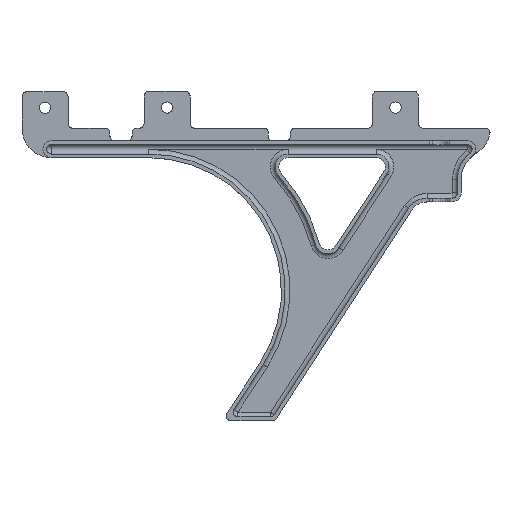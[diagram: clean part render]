
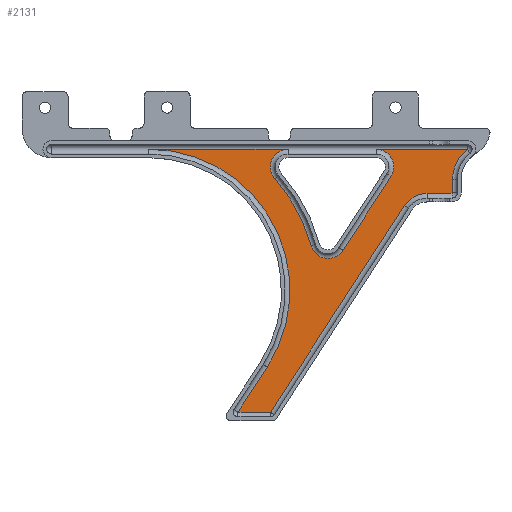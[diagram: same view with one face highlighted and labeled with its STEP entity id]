
A CAD part, top view. The second image highlights one B-rep face of the part: STEP entity #2131.
In plain terms, the highlighted planar face has unit normal (0, 0, 1).
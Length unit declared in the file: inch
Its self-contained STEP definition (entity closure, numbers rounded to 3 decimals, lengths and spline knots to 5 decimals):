
#44=PLANE('',#2312);
#110=FACE_OUTER_BOUND('',#230,.T.);
#230=EDGE_LOOP('',(#1531,#1532,#1533,#1534,#1535,#1536,#1537,#1538,#1539,
#1540,#1541,#1542,#1543,#1544,#1545,#1546));
#351=LINE('',#3303,#537);
#353=LINE('',#3313,#539);
#355=LINE('',#3321,#541);
#376=LINE('',#3384,#562);
#379=LINE('',#3393,#565);
#381=LINE('',#3403,#567);
#382=LINE('',#3431,#568);
#384=LINE('',#3448,#570);
#537=VECTOR('',#2572,0.3937);
#539=VECTOR('',#2582,0.3937);
#541=VECTOR('',#2588,0.3937);
#562=VECTOR('',#2641,0.3937);
#565=VECTOR('',#2650,0.3937);
#567=VECTOR('',#2662,0.3937);
#568=VECTOR('',#2679,0.3937);
#570=VECTOR('',#2705,0.3937);
#731=CIRCLE('',#2282,1.915);
#739=CIRCLE('',#2295,0.365);
#742=CIRCLE('',#2298,0.01);
#746=CIRCLE('',#2304,0.515);
#751=CIRCLE('',#2313,0.24);
#752=CIRCLE('',#2314,0.24);
#753=CIRCLE('',#2315,2.285);
#754=CIRCLE('',#2316,0.24);
#872=VERTEX_POINT('',#3300);
#873=VERTEX_POINT('',#3302);
#876=VERTEX_POINT('',#3310);
#877=VERTEX_POINT('',#3312);
#880=VERTEX_POINT('',#3318);
#881=VERTEX_POINT('',#3320);
#905=VERTEX_POINT('',#3376);
#907=VERTEX_POINT('',#3382);
#910=VERTEX_POINT('',#3391);
#913=VERTEX_POINT('',#3401);
#915=VERTEX_POINT('',#3423);
#917=VERTEX_POINT('',#3429);
#919=VERTEX_POINT('',#3445);
#920=VERTEX_POINT('',#3447);
#921=VERTEX_POINT('',#3449);
#922=VERTEX_POINT('',#3451);
#1092=EDGE_CURVE('',#872,#873,#351,.T.);
#1097=EDGE_CURVE('',#876,#877,#353,.T.);
#1101=EDGE_CURVE('',#880,#881,#355,.T.);
#1130=EDGE_CURVE('',#905,#876,#731,.T.);
#1133=EDGE_CURVE('',#907,#905,#376,.T.);
#1138=EDGE_CURVE('',#910,#907,#379,.T.);
#1143=EDGE_CURVE('',#913,#910,#381,.T.);
#1144=EDGE_CURVE('',#873,#913,#739,.T.);
#1147=EDGE_CURVE('',#915,#872,#742,.T.);
#1150=EDGE_CURVE('',#917,#915,#382,.T.);
#1153=EDGE_CURVE('',#881,#917,#746,.T.);
#1158=EDGE_CURVE('',#919,#880,#751,.T.);
#1159=EDGE_CURVE('',#920,#919,#384,.T.);
#1160=EDGE_CURVE('',#921,#920,#752,.T.);
#1161=EDGE_CURVE('',#922,#921,#753,.T.);
#1162=EDGE_CURVE('',#877,#922,#754,.T.);
#1531=ORIENTED_EDGE('',*,*,#1097,.F.);
#1532=ORIENTED_EDGE('',*,*,#1130,.F.);
#1533=ORIENTED_EDGE('',*,*,#1133,.F.);
#1534=ORIENTED_EDGE('',*,*,#1138,.F.);
#1535=ORIENTED_EDGE('',*,*,#1143,.F.);
#1536=ORIENTED_EDGE('',*,*,#1144,.F.);
#1537=ORIENTED_EDGE('',*,*,#1092,.F.);
#1538=ORIENTED_EDGE('',*,*,#1147,.F.);
#1539=ORIENTED_EDGE('',*,*,#1150,.F.);
#1540=ORIENTED_EDGE('',*,*,#1153,.F.);
#1541=ORIENTED_EDGE('',*,*,#1101,.F.);
#1542=ORIENTED_EDGE('',*,*,#1158,.F.);
#1543=ORIENTED_EDGE('',*,*,#1159,.F.);
#1544=ORIENTED_EDGE('',*,*,#1160,.F.);
#1545=ORIENTED_EDGE('',*,*,#1161,.F.);
#1546=ORIENTED_EDGE('',*,*,#1162,.F.);
#2131=ADVANCED_FACE('',(#110),#44,.T.);
#2282=AXIS2_PLACEMENT_3D('',#3378,#2633,#2634);
#2295=AXIS2_PLACEMENT_3D('',#3405,#2665,#2666);
#2298=AXIS2_PLACEMENT_3D('',#3425,#2671,#2672);
#2304=AXIS2_PLACEMENT_3D('',#3436,#2685,#2686);
#2312=AXIS2_PLACEMENT_3D('',#3444,#2701,#2702);
#2313=AXIS2_PLACEMENT_3D('',#3446,#2703,#2704);
#2314=AXIS2_PLACEMENT_3D('',#3450,#2706,#2707);
#2315=AXIS2_PLACEMENT_3D('',#3452,#2708,#2709);
#2316=AXIS2_PLACEMENT_3D('',#3453,#2710,#2711);
#2572=DIRECTION('',(-1.,0.,0.));
#2582=DIRECTION('',(1.,0.,0.));
#2588=DIRECTION('',(1.,0.,0.));
#2633=DIRECTION('center_axis',(0.,0.,
1.));
#2634=DIRECTION('ref_axis',(0.879,0.477,0.));
#2641=DIRECTION('',(0.545,0.839,0.));
#2650=DIRECTION('',(-1.,0.,0.));
#2662=DIRECTION('',(-0.545,-0.839,0.));
#2665=DIRECTION('center_axis',(0.,0.,
1.));
#2666=DIRECTION('ref_axis',(-0.477,0.879,0.));
#2671=DIRECTION('center_axis',(0.,0.,
-1.));
#2672=DIRECTION('ref_axis',(0.71,-0.704,0.));
#2679=DIRECTION('',(0.008,-1.,0.));
#2685=DIRECTION('center_axis',(0.,0.,
1.));
#2686=DIRECTION('ref_axis',(-0.9,0.436,0.));
#2701=DIRECTION('center_axis',(0.,0.,
1.));
#2702=DIRECTION('ref_axis',(-1.,0.,0.));
#2703=DIRECTION('center_axis',(0.,0.,
1.));
#2704=DIRECTION('ref_axis',(0.879,0.477,0.));
#2705=DIRECTION('',(0.545,0.839,0.));
#2706=DIRECTION('center_axis',(0.,0.,
1.));
#2707=DIRECTION('ref_axis',(-0.153,-0.988,0.));
#2708=DIRECTION('center_axis',(0.,0.,
-1.));
#2709=DIRECTION('ref_axis',(0.879,0.477,0.));
#2710=DIRECTION('center_axis',(0.,0.,
1.));
#2711=DIRECTION('ref_axis',(-0.912,0.41,0.));
#3300=CARTESIAN_POINT('',(5.52464,-1.1624,0.11811));
#3302=CARTESIAN_POINT('',(5.18592,-1.1624,0.11811));
#3303=CARTESIAN_POINT('',(4.19417,-1.1624,0.11811));
#3310=CARTESIAN_POINT('',(1.40922,-0.5624,0.11811));
#3312=CARTESIAN_POINT('',(3.29867,-0.5624,0.11811));
#3313=CARTESIAN_POINT('',(1.47558,-0.5624,0.11811));
#3318=CARTESIAN_POINT('',(4.49419,-0.5624,0.11811));
#3320=CARTESIAN_POINT('',(5.73188,-0.5624,0.11811));
#3321=CARTESIAN_POINT('',(1.47558,-0.5624,0.11811));
#3376=CARTESIAN_POINT('',(3.01528,-3.52038,0.11811));
#3378=CARTESIAN_POINT('Origin',(1.40922,-2.4774,0.11811));
#3382=CARTESIAN_POINT('',(2.6188,-4.1309,0.11811));
#3384=CARTESIAN_POINT('',(3.19228,-3.24783,0.11811));
#3391=CARTESIAN_POINT('',(3.05998,-4.1309,0.11811));
#3393=CARTESIAN_POINT('',(2.96183,-4.1309,0.11811));
#3401=CARTESIAN_POINT('',(4.87981,-1.32861,0.11811));
#3403=CARTESIAN_POINT('',(4.47794,-1.94744,0.11811));
#3405=CARTESIAN_POINT('Origin',(5.18592,-1.5274,0.11811));
#3423=CARTESIAN_POINT('',(5.53464,-1.15232,0.11811));
#3425=CARTESIAN_POINT('Origin',(5.52464,-1.1524,0.11811));
#3429=CARTESIAN_POINT('',(5.53318,-0.97303,0.11811));
#3431=CARTESIAN_POINT('',(5.53637,-1.36508,0.11811));
#3436=CARTESIAN_POINT('Origin',(6.04816,-0.96883,0.11811));
#3444=CARTESIAN_POINT('Origin',(2.86369,-1.77895,0.11811));
#3445=CARTESIAN_POINT('',(4.69547,-0.93311,0.11811));
#3446=CARTESIAN_POINT('Origin',(4.49419,-0.8024,0.11811));
#3447=CARTESIAN_POINT('',(4.04434,-1.93576,0.11811));
#3448=CARTESIAN_POINT('',(3.90505,-2.15026,0.11811));
#3449=CARTESIAN_POINT('',(3.61173,-1.86895,0.11811));
#3450=CARTESIAN_POINT('Origin',(3.84306,-1.80505,0.11811));
#3451=CARTESIAN_POINT('',(3.11908,-0.96161,0.11811));
#3452=CARTESIAN_POINT('Origin',(1.40922,-2.4774,0.11811));
#3453=CARTESIAN_POINT('Origin',(3.29867,-0.8024,0.11811));
